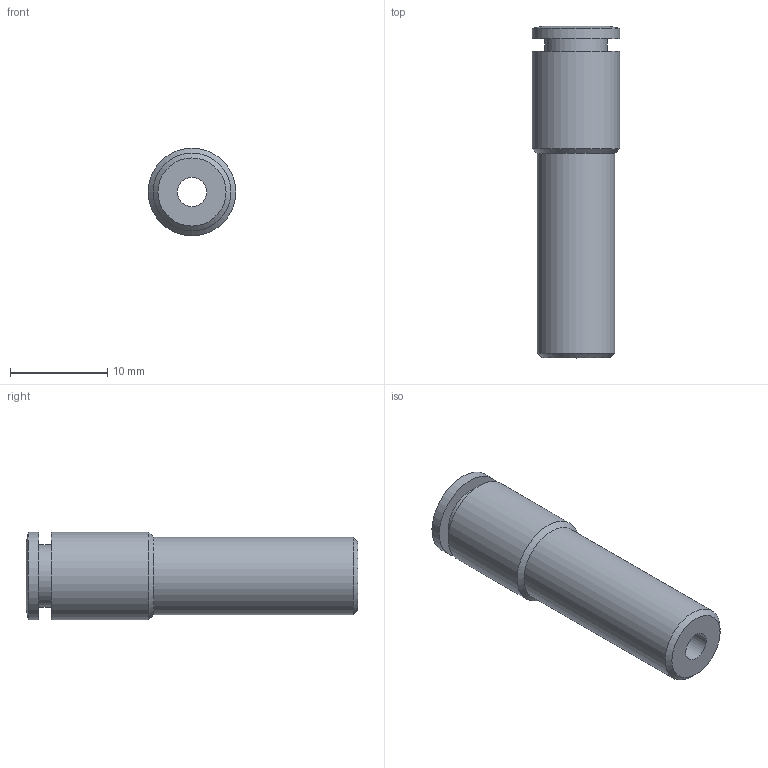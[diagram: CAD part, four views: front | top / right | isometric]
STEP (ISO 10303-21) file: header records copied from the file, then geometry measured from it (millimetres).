
FILE_DESCRIPTION((''),'2;1');
FILE_NAME('C:\Documents and Settings\rivolro1\Documenti\copia di Raccordi\PLASTICA\T08XXXX\T080804.stp','2007-10-30T17:04:54',('Rivolro1'),(''),'Autodesk Inventor 2008','Autodesk Inventor 2008','');
FILE_SCHEMA(('AUTOMOTIVE_DESIGN { 1 0 10303 214 1 1 1 1 }'));
Length unit declared in the file: millimetre
Products named in the file (1): T080804
Bounding box: 9 x 34.1 x 9 mm (x, y, z)
Volume: 1494.3 mm3; surface area: 1419.5 mm2
Topology: 1 solids, 1 shells, 14 faces, 23 edges, 14 vertices
Faces by surface type: cylinder 5, plane 4, cone 3, bspline 2
Full cylindrical faces by diameter (mm): 3 x1, 6.4 x1, 8 x1, 9 x2
Entity records: 343 total; most frequent: CARTESIAN_POINT 63, DIRECTION 54, ORIENTED_EDGE 28, EDGE_LOOP 28, AXIS2_PLACEMENT_3D 27, VERTEX_POINT 14, CIRCLE 14, EDGE_CURVE 14
